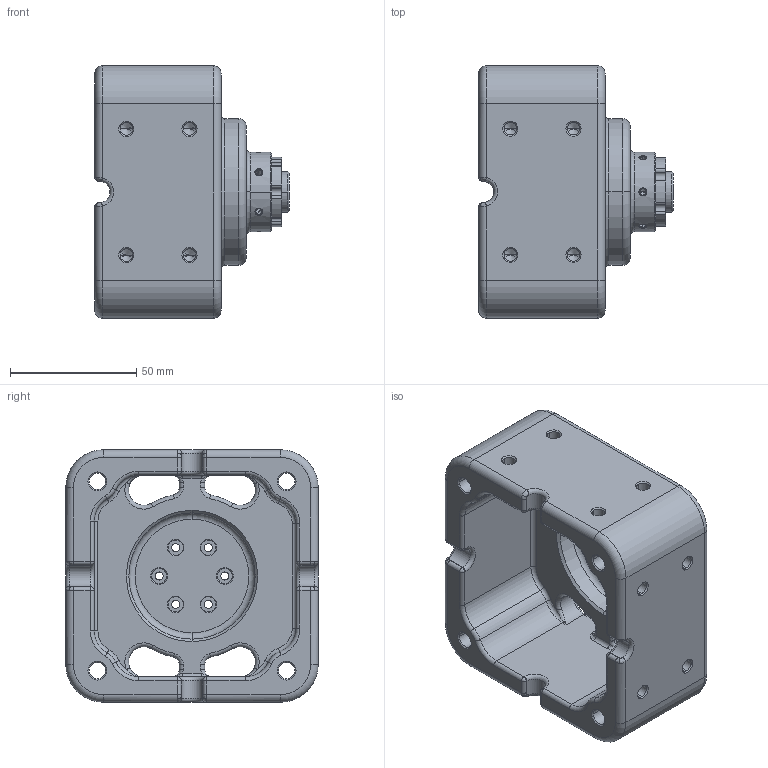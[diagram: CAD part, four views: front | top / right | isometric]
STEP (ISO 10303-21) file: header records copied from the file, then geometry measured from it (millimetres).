
FILE_DESCRIPTION((''),'2;1');
FILE_NAME('JXB-NE30C-BASE-XIN','2019-12-03T',('Win10'),(''),'PRO/ENGINEER BY PARAMETRIC TECHNOLOGY CORPORATION, 2010280','PRO/ENGINEER BY PARAMETRIC TECHNOLOGY CORPORATION, 2010280','');
FILE_SCHEMA(('AUTOMOTIVE_DESIGN_CC2 { 1 2 10303 214 -1 1 5 2 }'));
Length unit declared in the file: millimetre
Products named in the file (1): JXB-NE30C-BASE-XIN
Bounding box: 77 x 100 x 100 mm (x, y, z)
Volume: 243981.2 mm3; surface area: 61148.2 mm2
Topology: 1 solids, 1 shells, 481 faces, 1216 edges, 720 vertices
Faces by surface type: cylinder 202, cone 102, torus 88, plane 41, bspline 40, sphere 8
Entity records: 19685 total; most frequent: CARTESIAN_POINT 4509, DIRECTION 2660, ORIENTED_EDGE 2344, PRESENTATION_STYLE_ASSIGNMENT 1173, STYLED_ITEM 1173, CURVE_STYLE 1172, EDGE_CURVE 1172, AXIS2_PLACEMENT_3D 1111
